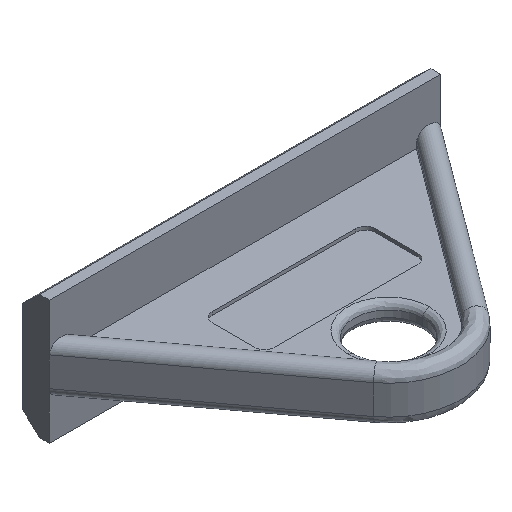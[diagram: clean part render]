
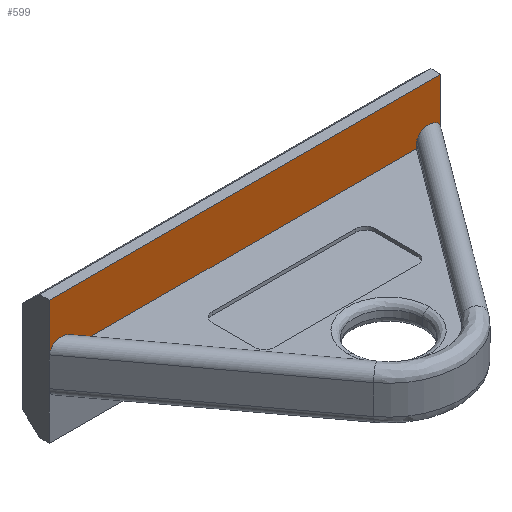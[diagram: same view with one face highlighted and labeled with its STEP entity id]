
A CAD part, isometric view. The second image highlights one B-rep face of the part: STEP entity #599.
In plain terms, the highlighted planar face has unit normal (0, -1, 0).
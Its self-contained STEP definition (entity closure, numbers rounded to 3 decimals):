
#2 = CARTESIAN_POINT ( 'NONE',  ( -26.266, 22., 1.5 ) ) ;
#5 = DIRECTION ( 'NONE',  ( 0., 0., 1. ) ) ;
#28 = CARTESIAN_POINT ( 'NONE',  ( -26.266, 22., 2.25 ) ) ;
#29 = CARTESIAN_POINT ( 'NONE',  ( -26.266, 22., 5.25 ) ) ;
#44 = CARTESIAN_POINT ( 'NONE',  ( -30., 22., 2.25 ) ) ;
#46 = CARTESIAN_POINT ( 'NONE',  ( -30., 22., 5.25 ) ) ;
#53 = FACE_OUTER_BOUND ( 'NONE', #511, .T. ) ;
#91 = VECTOR ( 'NONE', #5, 1000. ) ;
#101 = CARTESIAN_POINT ( 'NONE',  ( 30., 22., 9.5 ) ) ;
#103 = DIRECTION ( 'NONE',  ( -1., 0., 0. ) ) ;
#110 = CARTESIAN_POINT ( 'NONE',  ( -30., 22., 2.25 ) ) ;
#134 = LINE ( 'NONE', #1742, #91 ) ;
#143 = CARTESIAN_POINT ( 'NONE',  ( 30., 22., 9.5 ) ) ;
#161 = EDGE_CURVE ( 'NONE', #1702, #1211, #325, .T. ) ;
#171 = VECTOR ( 'NONE', #1569, 1000. ) ;
#172 = CARTESIAN_POINT ( 'NONE',  ( 30., 22., 2.25 ) ) ;
#178 = CARTESIAN_POINT ( 'NONE',  ( 26.266, 22., 2.25 ) ) ;
#180 = CARTESIAN_POINT ( 'NONE',  ( 30., 22., 5.25 ) ) ;
#193 = LINE ( 'NONE', #1557, #171 ) ;
#204 = CARTESIAN_POINT ( 'NONE',  ( 26.266, 22., 5.25 ) ) ;
#233 = DIRECTION ( 'NONE',  ( 1., 0., 0. ) ) ;
#237 = CARTESIAN_POINT ( 'NONE',  ( 30., 22., 1.5 ) ) ;
#296 = VECTOR ( 'NONE', #1110, 1000. ) ;
#314 = CARTESIAN_POINT ( 'NONE',  ( -26.266, 22., 2.25 ) ) ;
#317 =( BOUNDED_CURVE ( )  B_SPLINE_CURVE ( 3, ( #178, #204, #180, #172 ),
 .UNSPECIFIED., .F., .T. ) 
 B_SPLINE_CURVE_WITH_KNOTS ( ( 4, 4 ),
 ( 3.142, 6.283 ),
 .UNSPECIFIED. ) 
 CURVE ( )  GEOMETRIC_REPRESENTATION_ITEM ( )  RATIONAL_B_SPLINE_CURVE ( ( 1., 0.333, 0.333, 1. ) ) 
 REPRESENTATION_ITEM ( '' )  );
#325 = LINE ( 'NONE', #665, #296 ) ;
#345 = AXIS2_PLACEMENT_3D ( 'NONE', #934, #809, #936 ) ;
#354 = CARTESIAN_POINT ( 'NONE',  ( 26.266, 22., 2.25 ) ) ;
#362 = ORIENTED_EDGE ( 'NONE', *, *, #756, .T. ) ;
#365 = ORIENTED_EDGE ( 'NONE', *, *, #1013, .T. ) ;
#367 = ORIENTED_EDGE ( 'NONE', *, *, #981, .T. ) ;
#368 = ORIENTED_EDGE ( 'NONE', *, *, #518, .T. ) ;
#370 = ORIENTED_EDGE ( 'NONE', *, *, #161, .T. ) ;
#382 = ORIENTED_EDGE ( 'NONE', *, *, #1201, .T. ) ;
#391 = ORIENTED_EDGE ( 'NONE', *, *, #399, .T. ) ;
#399 = EDGE_CURVE ( 'NONE', #569, #1186, #193, .T. ) ;
#410 = CARTESIAN_POINT ( 'NONE',  ( -30., 22., 9.5 ) ) ;
#429 = VERTEX_POINT ( 'NONE', #1625 ) ;
#511 = EDGE_LOOP ( 'NONE', ( #808, #362, #367, #368, #365, #370, #382, #391 ) ) ;
#518 = EDGE_CURVE ( 'NONE', #429, #1551, #134, .T. ) ;
#569 = VERTEX_POINT ( 'NONE', #410 ) ;
#599 = ADVANCED_FACE ( 'NONE', ( #53 ), #1061, .T. ) ;
#665 = CARTESIAN_POINT ( 'NONE',  ( 30., 22., -9.5 ) ) ;
#756 = EDGE_CURVE ( 'NONE', #947, #1079, #1657, .T. ) ;
#808 = ORIENTED_EDGE ( 'NONE', *, *, #1071, .T. ) ;
#809 = DIRECTION ( 'NONE',  ( 0., -1., 0. ) ) ;
#862 = CARTESIAN_POINT ( 'NONE',  ( -26.266, 22., 3.75 ) ) ;
#934 = CARTESIAN_POINT ( 'NONE',  ( 30., 22., -9.5 ) ) ;
#936 = DIRECTION ( 'NONE',  ( 0., 0., -1. ) ) ;
#947 = VERTEX_POINT ( 'NONE', #314 ) ;
#981 = EDGE_CURVE ( 'NONE', #1079, #429, #1426, .T. ) ;
#989 = DIRECTION ( 'NONE',  ( 0., 0., -1. ) ) ;
#1013 = EDGE_CURVE ( 'NONE', #1551, #1702, #317, .T. ) ;
#1061 = PLANE ( 'NONE',  #345 ) ;
#1071 = EDGE_CURVE ( 'NONE', #1186, #947, #1516, .T. ) ;
#1079 = VERTEX_POINT ( 'NONE', #2 ) ;
#1110 = DIRECTION ( 'NONE',  ( 0., 0., 1. ) ) ;
#1139 = VECTOR ( 'NONE', #103, 1000. ) ;
#1159 = LINE ( 'NONE', #101, #1139 ) ;
#1186 = VERTEX_POINT ( 'NONE', #110 ) ;
#1201 = EDGE_CURVE ( 'NONE', #1211, #569, #1159, .T. ) ;
#1211 = VERTEX_POINT ( 'NONE', #143 ) ;
#1367 = CARTESIAN_POINT ( 'NONE',  ( 30., 22., 2.25 ) ) ;
#1408 = VECTOR ( 'NONE', #233, 1000. ) ;
#1426 = LINE ( 'NONE', #237, #1408 ) ;
#1516 =( BOUNDED_CURVE ( )  B_SPLINE_CURVE ( 3, ( #44, #46, #29, #28 ),
 .UNSPECIFIED., .F., .T. ) 
 B_SPLINE_CURVE_WITH_KNOTS ( ( 4, 4 ),
 ( 3.142, 6.283 ),
 .UNSPECIFIED. ) 
 CURVE ( )  GEOMETRIC_REPRESENTATION_ITEM ( )  RATIONAL_B_SPLINE_CURVE ( ( 1., 0.333, 0.333, 1. ) ) 
 REPRESENTATION_ITEM ( '' )  );
#1551 = VERTEX_POINT ( 'NONE', #354 ) ;
#1557 = CARTESIAN_POINT ( 'NONE',  ( -30., 22., -9.5 ) ) ;
#1569 = DIRECTION ( 'NONE',  ( 0., 0., -1. ) ) ;
#1625 = CARTESIAN_POINT ( 'NONE',  ( 26.266, 22., 1.5 ) ) ;
#1635 = VECTOR ( 'NONE', #989, 1000. ) ;
#1657 = LINE ( 'NONE', #862, #1635 ) ;
#1702 = VERTEX_POINT ( 'NONE', #1367 ) ;
#1742 = CARTESIAN_POINT ( 'NONE',  ( 26.266, 22., 3.75 ) ) ;
